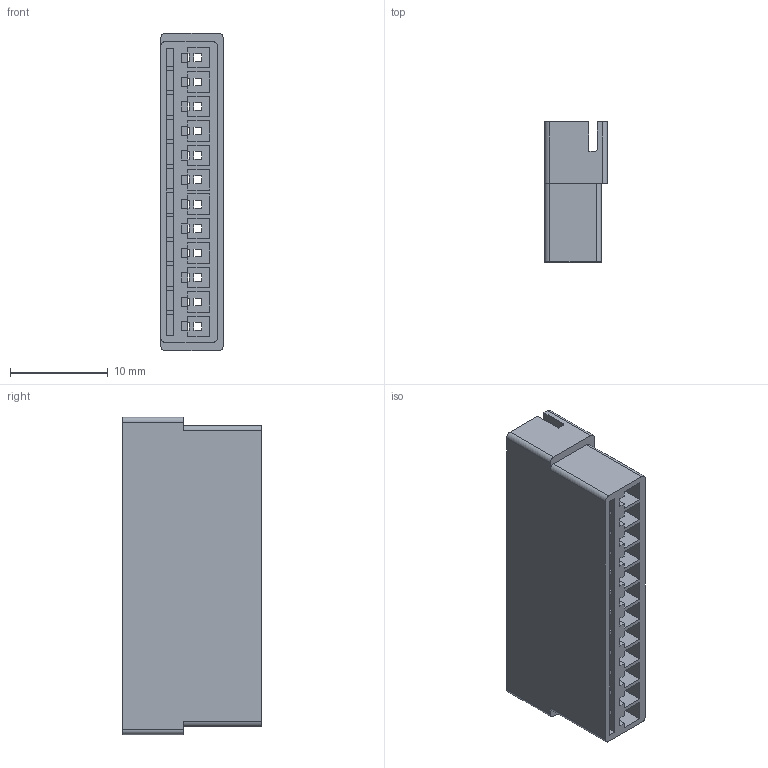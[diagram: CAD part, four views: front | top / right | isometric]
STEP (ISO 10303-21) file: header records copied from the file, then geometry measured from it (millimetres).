
FILE_DESCRIPTION(('CATIA V5 STEP Exchange'),'2;1');
FILE_NAME('\\Erp\共享文件夹\3D文件\小覃\条形连接器-小黄\XH\NEY\HC-XH-12EY-05(2.50 单排 母孔座-HCTL).stp','2025-02-25T09:58:26+00:00',('none'),('none'),'CATIA Version 5 Release 20 GA (IN-10)','CATIA V5 STEP AP203','none');
FILE_SCHEMA(('CONFIG_CONTROL_DESIGN'));
Length unit declared in the file: millimetre
Products named in the file (1): Part2
Bounding box: 6.4 x 14.3 x 32.5 mm (x, y, z)
Volume: 1785.1 mm3; surface area: 2922.2 mm2
Topology: 1 solids, 1 shells, 332 faces, 993 edges, 652 vertices
Faces by surface type: plane 318, cylinder 14
Entity records: 10183 total; most frequent: ORIENTED_EDGE 1986, CARTESIAN_POINT 1810, DIRECTION 1315, EDGE_CURVE 993, VECTOR 961, LINE 961, VERTEX_POINT 652, EDGE_LOOP 369
